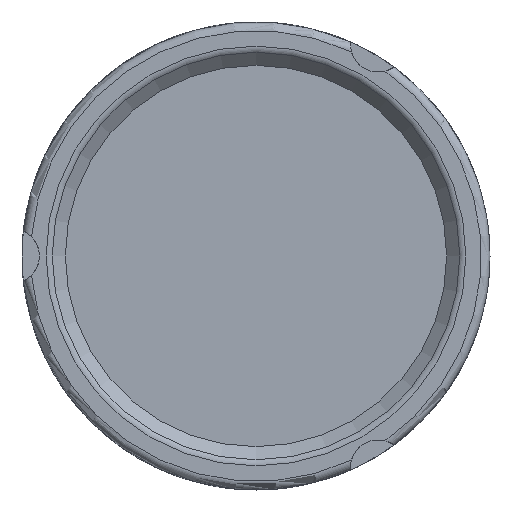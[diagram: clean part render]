
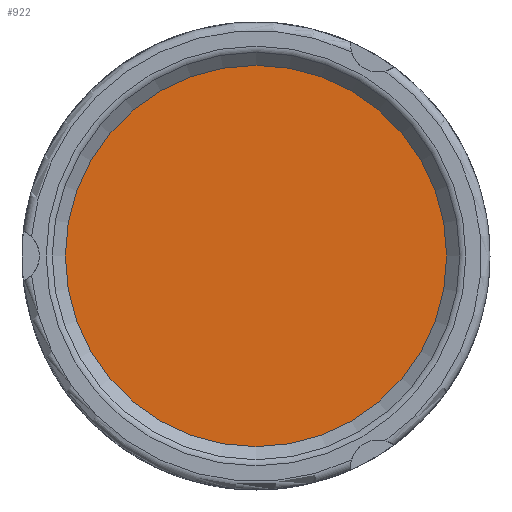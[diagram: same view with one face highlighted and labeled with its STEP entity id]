
A CAD part, left-side view. The second image highlights one B-rep face of the part: STEP entity #922.
In plain terms, the highlighted planar face has unit normal (-1, 0, 0).
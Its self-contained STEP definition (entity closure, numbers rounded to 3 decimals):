
#253=FACE_OUTER_BOUND('',#330,.T.);
#330=EDGE_LOOP('',(#851));
#387=CIRCLE('',#1062,12.2);
#471=VERTEX_POINT('',#2180);
#598=EDGE_CURVE('',#471,#471,#387,.T.);
#851=ORIENTED_EDGE('',*,*,#598,.F.);
#861=PLANE('',#1063);
#922=ADVANCED_FACE('',(#253),#861,.F.);
#1062=AXIS2_PLACEMENT_3D('',#2182,#1334,#1335);
#1063=AXIS2_PLACEMENT_3D('',#2183,#1336,#1337);
#1334=DIRECTION('center_axis',(1.,0.,0.));
#1335=DIRECTION('ref_axis',(0.,0.,-1.));
#1336=DIRECTION('center_axis',(1.,0.,0.));
#1337=DIRECTION('ref_axis',(0.,0.,-1.));
#2180=CARTESIAN_POINT('',(-26.2,0.,12.2));
#2182=CARTESIAN_POINT('Origin',(-26.2,0.,0.));
#2183=CARTESIAN_POINT('Origin',(-26.2,0.,0.));
